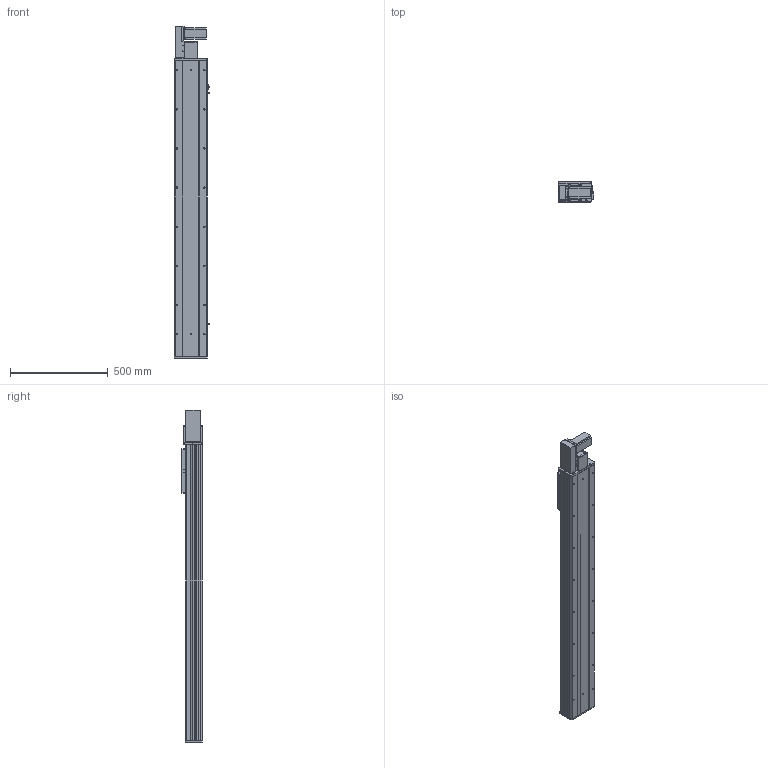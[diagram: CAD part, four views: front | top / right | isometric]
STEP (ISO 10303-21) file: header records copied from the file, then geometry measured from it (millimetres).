
FILE_DESCRIPTION (( 'STEP AP203' ), '1' );
FILE_NAME ('Y170CB-D105-S1200-BL-P400W.STEP', '2020-02-20T01:20:20', ( '微软用户' ), ( '微软中国' ), 'SwSTEP 2.0', 'SolidWorks 2017', '' );
FILE_SCHEMA (( 'CONFIG_CONTROL_DESIGN' ));
Length unit declared in the file: millimetre
Products named in the file (18): Y170CB-D105-S1200-BL-P400W; 70CB--耜裔; 17B-耜蚾蟀諉啣----; 70C-雄赽釱-奻-; 0B-萇儂楊擘啣; 0C--雄赽釱俋欶-170; san松下电机400不带刹车----; 70CB-詩湍--; Y70俋欶BR----; Y100-135俋离換覜ん--; 70CB-掛极-; Y170CB-陔俋离換覜結え---; --70CB --喘謫眊楊擘啣-; 70B喘謫眊----; 70CB-耜裔啣-; Y1埴倛裔; 70C--詩湍揤踡え-; B-源倛裔啣
Assembly tree (21 placements, depth 2):
  Y170CB-D105-S1200-BL-P400W
    B-源倛裔啣
    17B-耜蚾蟀諉啣----
    0B-萇儂楊擘啣
    san松下电机400不带刹车----
    Y70俋欶BR----
    70CB-掛极-
    --70CB --喘謫眊楊擘啣-
    70CB-耜裔啣-  x2
    70C--詩湍揤踡え-  x2
    70CB--耜裔
    70C-雄赽釱-奻-
    0C--雄赽釱俋欶-170
    70CB-詩湍--
    Y100-135俋离換覜ん--  x3
    Y170CB-陔俋离換覜結え---
    70B喘謫眊----
    Y1埴倛裔
Bounding box: 183.5 x 107 x 1697 mm (x, y, z)
Volume: 7325106.9 mm3; surface area: 2627897.1 mm2
Topology: 21 solids, 21 shells, 1015 faces, 2717 edges, 1802 vertices
Faces by surface type: cylinder 527, plane 464, cone 24
Entity records: 32320 total; most frequent: CARTESIAN_POINT 5916, DIRECTION 5254, ORIENTED_EDGE 4916, EDGE_CURVE 2458, AXIS2_PLACEMENT_3D 1924, VERTEX_POINT 1632, VECTOR 1406, LINE 1406
